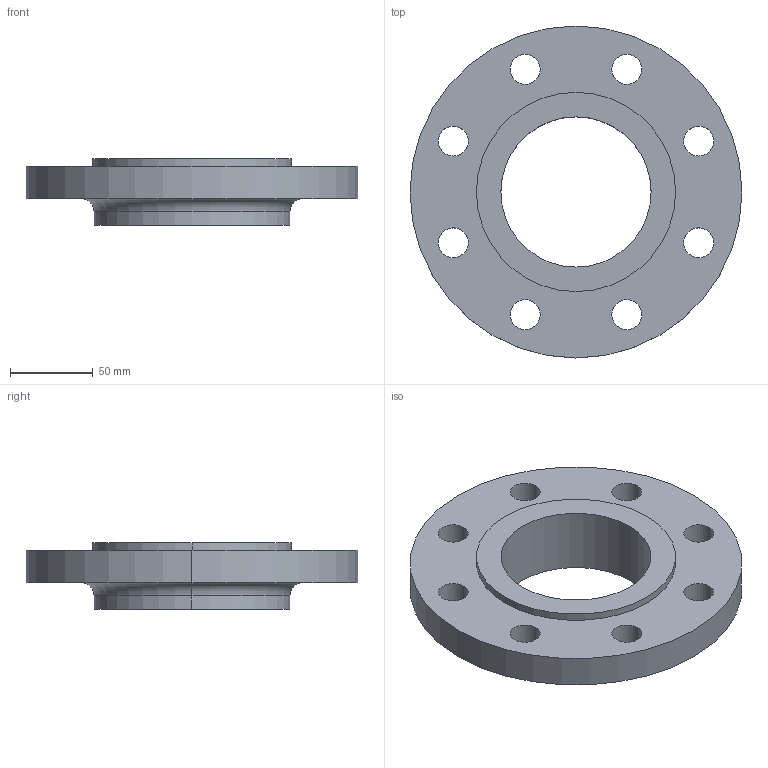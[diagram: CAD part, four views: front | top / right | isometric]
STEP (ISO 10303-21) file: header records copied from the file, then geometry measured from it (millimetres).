
FILE_DESCRIPTION (( 'STEP AP214' ), '1' );
FILE_NAME ('PN40 DN80 Type 12 - Type E Face.STEP', '2019-01-01T19:40:01', ( '' ), ( '' ), 'SwSTEP 2.0', 'SolidWorks 2019', '' );
FILE_SCHEMA (( 'AUTOMOTIVE_DESIGN' ));
Length unit declared in the file: millimetre
Products named in the file (1): PN40 DN80 Type 12 - Type E Face
Bounding box: 200 x 200 x 40 mm (x, y, z)
Volume: 546722.8 mm3; surface area: 84724.9 mm2
Topology: 1 solids, 1 shells, 30 faces, 76 edges, 50 vertices
Faces by surface type: cylinder 24, plane 4, torus 2
Entity records: 1006 total; most frequent: DIRECTION 190, CARTESIAN_POINT 157, ORIENTED_EDGE 152, AXIS2_PLACEMENT_3D 83, EDGE_CURVE 76, CIRCLE 52, EDGE_LOOP 50, VERTEX_POINT 50
